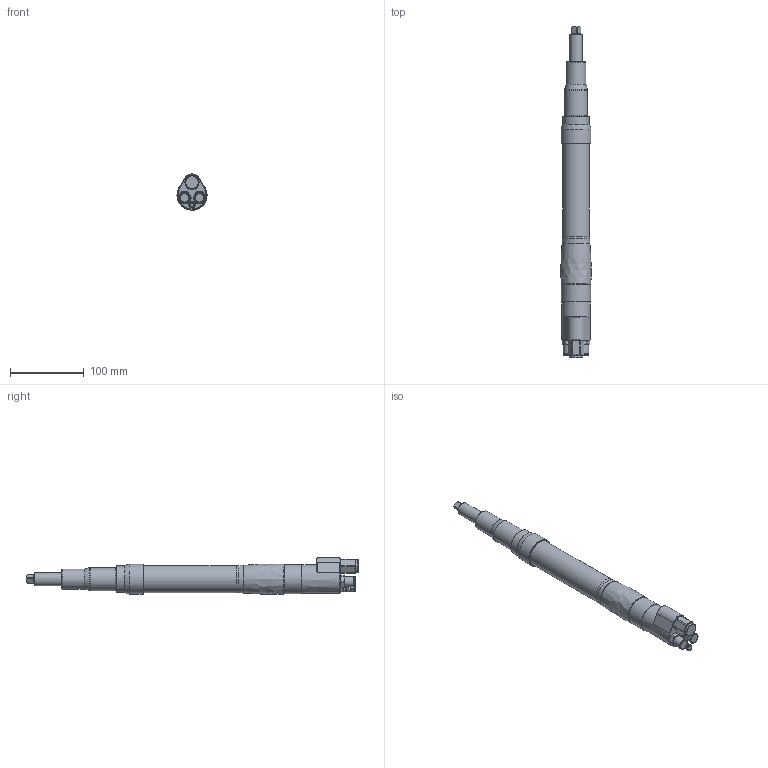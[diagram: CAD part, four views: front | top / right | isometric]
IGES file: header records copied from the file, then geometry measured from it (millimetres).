
Global section: file name: C:\Documents and Settings\tbok\Desktop\QA4ASRS020NF41S06.igs; native system: Unigraphics Version X V2.0; preprocessor: Unigraphics NX IGES V2.0; date: 20060502.130816; units: millimetre
Bounding box: 41.14 x 449.94 x 49.46 mm (x, y, z)
Surface area: 54426.1 mm2 (no closed solid volume)
Topology: 0 solids, 0 shells, 226 faces, 2741 edges, 2695 vertices
Faces by surface type: revolution 140, extrusion 84, bspline 2
